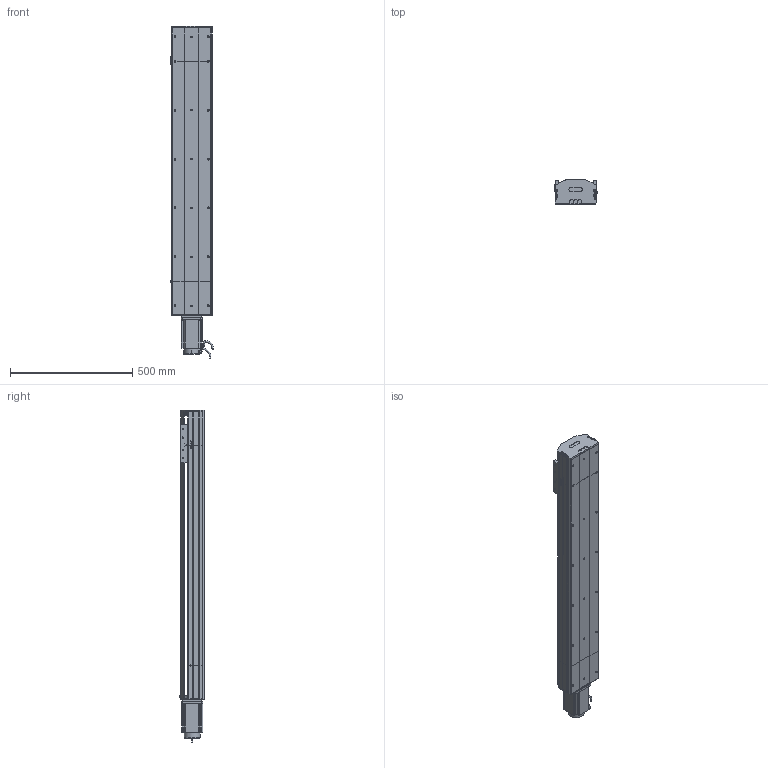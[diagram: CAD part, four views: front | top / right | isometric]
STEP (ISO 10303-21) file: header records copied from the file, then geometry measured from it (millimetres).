
FILE_DESCRIPTION (( 'STEP AP214' ), '1' );
FILE_NAME ('D17 TSH MD S900.STEP', '2010-06-30T06:54:12', ( 'Christophe Gaillard' ), ( 'SGA' ), 'SwSTEP 2.0', 'SolidWorks 2010', '' );
FILE_SCHEMA (( 'AUTOMOTIVE_DESIGN' ));
Length unit declared in the file: millimetre
Products named in the file (31): vis M5 L12_Default; guide D17; Conecteur_Default; Conecteur2_Default; codeur 90BLDC125-640; Chariot D17; chariot D17S_Default; Vis M5 L16-2_Default; corps 90BLDC125A-640; D17 TSH MD S900; corp D17 900_Default; arbre + rail D17 Course 900 ; course 900 D17_Default; corpl tail D17+L100_Default; Tail D17+L100_Default; couvercle D17 course L900_Default; tete d''axe haut D17; tete d''axe bas D17; plaque de  bout tail D17_Default; vis M5 L8 90°_Default; couvercle D17_Default; Arbre+rail tail D17; corpl head D17 MD_Default; head MD_Default; vis M5 L25_Default; Arbre+rail head D17; plaque de  bout head D17_Default; couvercle D17 head_Default; avant 90BLDC125A-640; Moteur motionking 90BLDC125A-640; vis M5 L5_Default
Assembly tree (50 placements, depth 4):
  D17 TSH MD S900
    head MD_Default
      Arbre+rail head D17
      vis M5 L12_Default  x6
      Vis M5 L16-2_Default  x4
      Moteur motionking 90BLDC125A-640
        Conecteur2_Default
        corps 90BLDC125A-640
        codeur 90BLDC125-640
        avant 90BLDC125A-640
        Conecteur_Default
      couvercle D17 head_Default
      vis M5 L5_Default  x2
      plaque de  bout head D17_Default
      corpl head D17 MD_Default
    chariot D17S_Default
      vis M5 L12_Default  x4
      Chariot D17
      guide D17  x2
    course 900 D17_Default
      couvercle D17 course L900_Default
      arbre + rail D17 Course 900 
      corp D17 900_Default
    Tail D17+L100_Default
      vis M5 L12_Default  x4
      vis M5 L25_Default  x2
      plaque de  bout tail D17_Default
      tete d''axe bas D17
      couvercle D17_Default
      vis M5 L8 90°_Default  x2
      Arbre+rail tail D17
      corpl tail D17+L100_Default
      tete d''axe haut D17
Bounding box: 174.95 x 99.7 x 1357.5 mm (x, y, z)
Volume: 7828766.1 mm3; surface area: 1991139.7 mm2
Topology: 75 solids, 75 shells, 2120 faces, 5390 edges, 3494 vertices
Faces by surface type: plane 1323, cylinder 548, bspline 136, torus 57, cone 56
Entity records: 71164 total; most frequent: CARTESIAN_POINT 22487, ORIENTED_EDGE 8596, DIRECTION 7951, EDGE_CURVE 4298, LINE 3003, VECTOR 3003, VERTEX_POINT 2830, AXIS2_PLACEMENT_3D 2474
